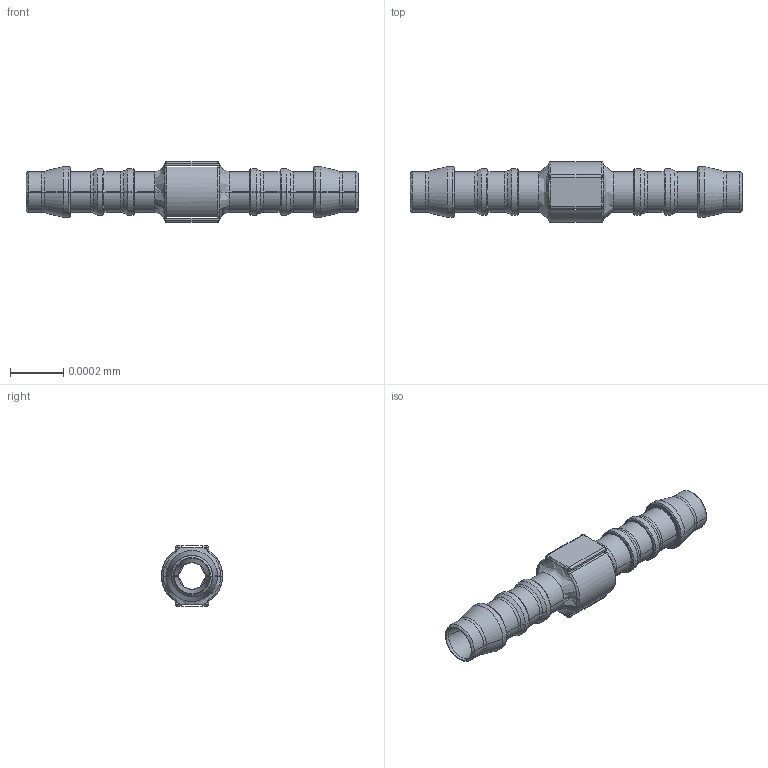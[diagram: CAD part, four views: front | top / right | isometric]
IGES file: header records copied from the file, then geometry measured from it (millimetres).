
Start section: SolidWorks IGES file using analytic representation for surfaces
Global section: file name: K:\Disegni Esecutivi\SERIE 14000\DOK\IGES\140400095X400.IGS; native system: SolidWorks 2020; preprocessor: SolidWorks 2020; author: cad06; date: 240507.164938; units: mil
Bounding box: 0 x 0 x 0 mm (x, y, z)
Surface area: 0 mm2 (no closed solid volume)
Topology: 0 solids, 0 shells, 178 faces, 1389 edges, 1373 vertices
Faces by surface type: revolution 92, bspline 86
